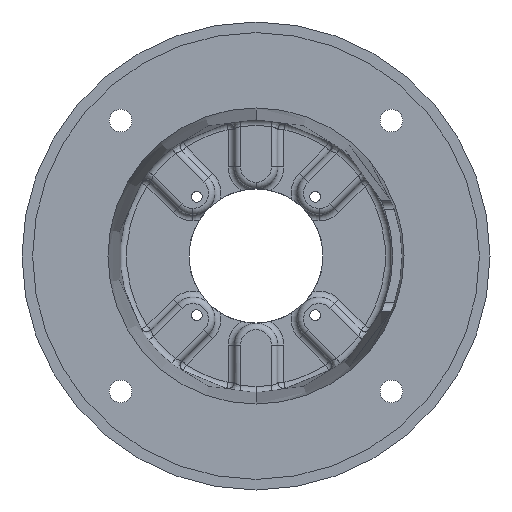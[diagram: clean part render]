
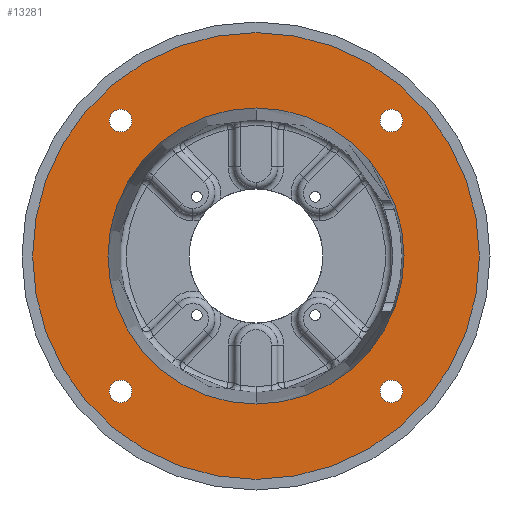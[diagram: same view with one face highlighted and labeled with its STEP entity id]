
A CAD part, front view. The second image highlights one B-rep face of the part: STEP entity #13281.
In plain terms, the highlighted planar face has unit normal (0, -1, 0).
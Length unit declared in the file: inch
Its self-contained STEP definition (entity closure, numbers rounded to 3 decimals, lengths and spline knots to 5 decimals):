
#52 = DIRECTION ( 'NONE',  ( 0., -1., 0. ) ) ;
#56 = VERTEX_POINT ( 'NONE', #1027 ) ;
#93 = ORIENTED_EDGE ( 'NONE', *, *, #7273, .F. ) ;
#367 = DIRECTION ( 'NONE',  ( 0., -1., 0. ) ) ;
#727 = DIRECTION ( 'NONE',  ( 0., -1., 0. ) ) ;
#892 = AXIS2_PLACEMENT_3D ( 'NONE', #12455, #6304, #13470 ) ;
#913 = VERTEX_POINT ( 'NONE', #11095 ) ;
#971 = DIRECTION ( 'NONE',  ( 0., -1., 0. ) ) ;
#1027 = CARTESIAN_POINT ( 'NONE',  ( -3.18198, 0.18, -3.44761 ) ) ;
#1690 = CARTESIAN_POINT ( 'NONE',  ( 0., 0.18, 0. ) ) ;
#2041 = CARTESIAN_POINT ( 'NONE',  ( 0., 0.18, 0. ) ) ;
#2387 = DIRECTION ( 'NONE',  ( 0., 1., 0. ) ) ;
#2630 = CARTESIAN_POINT ( 'NONE',  ( 3.18198, 0.18, -3.18198 ) ) ;
#2660 = ORIENTED_EDGE ( 'NONE', *, *, #9632, .T. ) ;
#2798 = DIRECTION ( 'NONE',  ( 0., 0., -1. ) ) ;
#2818 = EDGE_CURVE ( 'NONE', #7099, #9845, #9379, .T. ) ;
#2936 = CARTESIAN_POINT ( 'NONE',  ( 0., 0.18, 3.47973 ) ) ;
#3160 = DIRECTION ( 'NONE',  ( 0., 0., -1. ) ) ;
#3255 = EDGE_LOOP ( 'NONE', ( #7604, #6085 ) ) ;
#3260 = AXIS2_PLACEMENT_3D ( 'NONE', #11002, #4710, #12015 ) ;
#3286 = CIRCLE ( 'NONE', #4865, 3.47973 ) ;
#3440 = CARTESIAN_POINT ( 'NONE',  ( 3.18198, 0.18, -3.44761 ) ) ;
#3750 = DIRECTION ( 'NONE',  ( 0., 0., -1. ) ) ;
#3881 = CARTESIAN_POINT ( 'NONE',  ( 3.18198, 0.18, 2.91636 ) ) ;
#3921 = VERTEX_POINT ( 'NONE', #13102 ) ;
#3966 = DIRECTION ( 'NONE',  ( 0., -1., 0. ) ) ;
#4155 = EDGE_CURVE ( 'NONE', #4378, #12153, #8111, .T. ) ;
#4273 = ORIENTED_EDGE ( 'NONE', *, *, #5635, .F. ) ;
#4283 = EDGE_LOOP ( 'NONE', ( #6895, #9785 ) ) ;
#4378 = VERTEX_POINT ( 'NONE', #12036 ) ;
#4710 = DIRECTION ( 'NONE',  ( 0., -1., 0. ) ) ;
#4756 = CIRCLE ( 'NONE', #11219, 0.26562 ) ;
#4865 = AXIS2_PLACEMENT_3D ( 'NONE', #2041, #9579, #3160 ) ;
#4908 = EDGE_CURVE ( 'NONE', #10954, #7611, #4756, .T. ) ;
#5078 = EDGE_LOOP ( 'NONE', ( #12934, #7027 ) ) ;
#5190 = VERTEX_POINT ( 'NONE', #2936 ) ;
#5290 = CIRCLE ( 'NONE', #12847, 3.47973 ) ;
#5564 = AXIS2_PLACEMENT_3D ( 'NONE', #2630, #10120, #3750 ) ;
#5617 = DIRECTION ( 'NONE',  ( 0., -1., 0. ) ) ;
#5635 = EDGE_CURVE ( 'NONE', #913, #12227, #6127, .T. ) ;
#5645 = CIRCLE ( 'NONE', #7711, 0.26562 ) ;
#5971 = FACE_BOUND ( 'NONE', #13325, .T. ) ;
#6085 = ORIENTED_EDGE ( 'NONE', *, *, #12606, .F. ) ;
#6127 = CIRCLE ( 'NONE', #5564, 0.26562 ) ;
#6304 = DIRECTION ( 'NONE',  ( 0., -1., 0. ) ) ;
#6325 = FACE_BOUND ( 'NONE', #7268, .T. ) ;
#6364 = DIRECTION ( 'NONE',  ( 0., -1., 0. ) ) ;
#6593 = AXIS2_PLACEMENT_3D ( 'NONE', #11827, #5617, #12835 ) ;
#6642 = EDGE_CURVE ( 'NONE', #3921, #5190, #5290, .T. ) ;
#6653 = CARTESIAN_POINT ( 'NONE',  ( 3.18198, 0.18, 3.18198 ) ) ;
#6895 = ORIENTED_EDGE ( 'NONE', *, *, #4908, .F. ) ;
#6959 = CARTESIAN_POINT ( 'NONE',  ( -3.18198, 0.18, 3.18198 ) ) ;
#6973 = AXIS2_PLACEMENT_3D ( 'NONE', #7559, #971, #8577 ) ;
#7027 = ORIENTED_EDGE ( 'NONE', *, *, #2818, .T. ) ;
#7099 = VERTEX_POINT ( 'NONE', #13097 ) ;
#7268 = EDGE_LOOP ( 'NONE', ( #93, #4273 ) ) ;
#7273 = EDGE_CURVE ( 'NONE', #12227, #913, #11456, .T. ) ;
#7316 = CARTESIAN_POINT ( 'NONE',  ( -3.18198, 0.18, 3.18198 ) ) ;
#7464 = EDGE_CURVE ( 'NONE', #7611, #10954, #7781, .T. ) ;
#7559 = CARTESIAN_POINT ( 'NONE',  ( -3.18198, 0.18, -3.18198 ) ) ;
#7604 = ORIENTED_EDGE ( 'NONE', *, *, #10404, .F. ) ;
#7611 = VERTEX_POINT ( 'NONE', #8530 ) ;
#7635 = CARTESIAN_POINT ( 'NONE',  ( -3.18198, 0.18, 3.44761 ) ) ;
#7711 = AXIS2_PLACEMENT_3D ( 'NONE', #12508, #6364, #13532 ) ;
#7719 = DIRECTION ( 'NONE',  ( 0., 0., -1. ) ) ;
#7781 = CIRCLE ( 'NONE', #13455, 0.26562 ) ;
#7875 = AXIS2_PLACEMENT_3D ( 'NONE', #7316, #727, #8357 ) ;
#8018 = DIRECTION ( 'NONE',  ( 0., 0., -1. ) ) ;
#8111 = CIRCLE ( 'NONE', #7875, 0.26562 ) ;
#8357 = DIRECTION ( 'NONE',  ( 0., 0., -1. ) ) ;
#8412 = VERTEX_POINT ( 'NONE', #10711 ) ;
#8530 = CARTESIAN_POINT ( 'NONE',  ( 3.18198, 0.18, 3.44761 ) ) ;
#8577 = DIRECTION ( 'NONE',  ( 0., 0., -1. ) ) ;
#8774 = FACE_OUTER_BOUND ( 'NONE', #5078, .T. ) ;
#8861 = CARTESIAN_POINT ( 'NONE',  ( 0., 0.18, 0. ) ) ;
#8962 = PLANE ( 'NONE',  #3260 ) ;
#8972 = CIRCLE ( 'NONE', #6973, 0.26562 ) ;
#9097 = FACE_BOUND ( 'NONE', #4283, .T. ) ;
#9242 = DIRECTION ( 'NONE',  ( 0., -1., 0. ) ) ;
#9262 = CIRCLE ( 'NONE', #9524, 0.26562 ) ;
#9379 = CIRCLE ( 'NONE', #892, 5.2505 ) ;
#9524 = AXIS2_PLACEMENT_3D ( 'NONE', #6959, #367, #8018 ) ;
#9579 = DIRECTION ( 'NONE',  ( 0., 1., 0. ) ) ;
#9632 = EDGE_CURVE ( 'NONE', #5190, #3921, #3286, .T. ) ;
#9714 = ORIENTED_EDGE ( 'NONE', *, *, #12919, .F. ) ;
#9785 = ORIENTED_EDGE ( 'NONE', *, *, #7464, .F. ) ;
#9845 = VERTEX_POINT ( 'NONE', #10362 ) ;
#9891 = DIRECTION ( 'NONE',  ( 0., 0., -1. ) ) ;
#9911 = EDGE_LOOP ( 'NONE', ( #13175, #9714 ) ) ;
#10120 = DIRECTION ( 'NONE',  ( 0., -1., 0. ) ) ;
#10319 = CARTESIAN_POINT ( 'NONE',  ( 3.18198, 0.18, 3.18198 ) ) ;
#10362 = CARTESIAN_POINT ( 'NONE',  ( 0., 0.18, -5.2505 ) ) ;
#10404 = EDGE_CURVE ( 'NONE', #56, #8412, #8972, .T. ) ;
#10711 = CARTESIAN_POINT ( 'NONE',  ( -3.18198, 0.18, -2.91636 ) ) ;
#10954 = VERTEX_POINT ( 'NONE', #3881 ) ;
#11002 = CARTESIAN_POINT ( 'NONE',  ( 0., 0.18, 0. ) ) ;
#11031 = AXIS2_PLACEMENT_3D ( 'NONE', #1690, #9242, #2798 ) ;
#11095 = CARTESIAN_POINT ( 'NONE',  ( 3.18198, 0.18, -2.91636 ) ) ;
#11219 = AXIS2_PLACEMENT_3D ( 'NONE', #6653, #52, #7719 ) ;
#11253 = EDGE_CURVE ( 'NONE', #9845, #7099, #13404, .T. ) ;
#11337 = DIRECTION ( 'NONE',  ( 0., 0., -1. ) ) ;
#11456 = CIRCLE ( 'NONE', #6593, 0.26562 ) ;
#11479 = FACE_BOUND ( 'NONE', #3255, .T. ) ;
#11796 = FACE_BOUND ( 'NONE', #9911, .T. ) ;
#11827 = CARTESIAN_POINT ( 'NONE',  ( 3.18198, 0.18, -3.18198 ) ) ;
#11842 = ORIENTED_EDGE ( 'NONE', *, *, #6642, .T. ) ;
#12015 = DIRECTION ( 'NONE',  ( 0., 0., -1. ) ) ;
#12036 = CARTESIAN_POINT ( 'NONE',  ( -3.18198, 0.18, 2.91636 ) ) ;
#12153 = VERTEX_POINT ( 'NONE', #7635 ) ;
#12227 = VERTEX_POINT ( 'NONE', #3440 ) ;
#12455 = CARTESIAN_POINT ( 'NONE',  ( 0., 0.18, 0. ) ) ;
#12508 = CARTESIAN_POINT ( 'NONE',  ( -3.18198, 0.18, -3.18198 ) ) ;
#12606 = EDGE_CURVE ( 'NONE', #8412, #56, #5645, .T. ) ;
#12835 = DIRECTION ( 'NONE',  ( 0., 0., -1. ) ) ;
#12847 = AXIS2_PLACEMENT_3D ( 'NONE', #8861, #2387, #9891 ) ;
#12919 = EDGE_CURVE ( 'NONE', #12153, #4378, #9262, .T. ) ;
#12934 = ORIENTED_EDGE ( 'NONE', *, *, #11253, .T. ) ;
#13097 = CARTESIAN_POINT ( 'NONE',  ( 0., 0.18, 5.2505 ) ) ;
#13102 = CARTESIAN_POINT ( 'NONE',  ( 0., 0.18, -3.47973 ) ) ;
#13175 = ORIENTED_EDGE ( 'NONE', *, *, #4155, .F. ) ;
#13281 = ADVANCED_FACE ( 'NONE', ( #11796, #9097, #6325, #11479, #8774, #5971 ), #8962, .T. ) ;
#13325 = EDGE_LOOP ( 'NONE', ( #11842, #2660 ) ) ;
#13404 = CIRCLE ( 'NONE', #11031, 5.2505 ) ;
#13455 = AXIS2_PLACEMENT_3D ( 'NONE', #10319, #3966, #11337 ) ;
#13470 = DIRECTION ( 'NONE',  ( 0., 0., -1. ) ) ;
#13532 = DIRECTION ( 'NONE',  ( 0., 0., -1. ) ) ;
